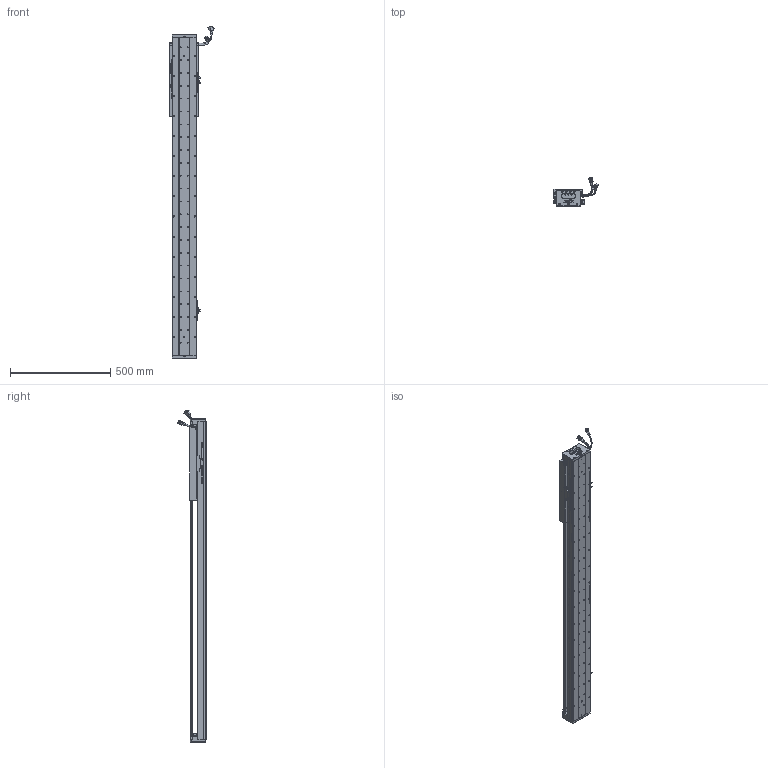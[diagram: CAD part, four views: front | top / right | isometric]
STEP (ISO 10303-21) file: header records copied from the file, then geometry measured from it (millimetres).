
FILE_DESCRIPTION (( 'STEP AP203' ), '1' );
FILE_NAME ('Z5-RY120D-1-L500-B-K.SLDASM_1150.step', '2021-05-17T06:22:28', ( '盈信电脑' ), ( '东莞市道滘镇水果街19号' ), 'SwSTEP 2.0', 'SolidWorks 2016', '' );
FILE_SCHEMA (( 'CONFIG_CONTROL_DESIGN' ));
Length unit declared in the file: millimetre
Products named in the file (37): 覜茼ん672; SCREW-M1.6-3; SHIELDPLATE; LABEL-Part-1; 120-Z-臏賑輸盄裔(21遴); COVER-Part-1; 080黍杅芛假蚾釱21遴; SEAL; SCREW-M1.7; SCREW-M1.6-2; 672嫖萇羲壽假蚾釱; Z5-RY120-500-倰第菁釱_1150; Z-RY120D詩湍奻揤裔; Z5-RY120D-1-L500-B-K.SLDASM_1150; HARNESS-Part-1; SCALE-Part-1; Z5-RY120-L500詩湍100mm遵_1150; 榋妏寠巭燃_暯_M2_2; HOLDER0; HARNESS; Z5-RY120铝滑块（21款）; Z-120詩湍傷裔啣; PSLH080_PSLF2; LABEL; 140雄赽晤鎢ん堤盄; PBU_SHEET; SCALE; SCREW-M1.6; HARNESS-Part-2; SEAL-Part-1; 140蚥薯蝶輸; COVER; SCALE-Part-2; SCREW-M1.6-1; SCREW-M1.7-1; RY100FB-遵嫖萇覜茼え; Z-RY120D詩湍狟揤裔
Assembly tree (43 placements, depth 4):
  Z5-RY120D-1-L500-B-K.SLDASM_1150
    Z5-RY120-500-倰第菁釱_1150
    覜茼ん672  x3
    672嫖萇羲壽假蚾釱  x2
    Z5-RY120铝滑块（21款）
    PSLH080_PSLF2
      SCALE
        SCALE-Part-1
        SCALE-Part-2
      HARNESS
        HARNESS-Part-1
        HARNESS-Part-2
      LABEL
        LABEL-Part-1
      COVER
        COVER-Part-1
      SEAL
        SEAL-Part-1
      榋妏寠巭燃_暯_M2_2
      SHIELDPLATE
      SCREW-M1.7
      SCREW-M1.7-1
      PBU_SHEET
      SCREW-M1.6
      SCREW-M1.6-1
      SCREW-M1.6-2
      SCREW-M1.6-3
      HOLDER0
    080黍杅芛假蚾釱21遴
    120-Z-臏賑輸盄裔(21遴)
    140雄赽晤鎢ん堤盄
    140蚥薯蝶輸  x2
    RY100FB-遵嫖萇覜茼え
    Z-120詩湍傷裔啣  x2
    Z-RY120D詩湍奻揤裔  x2
    Z-RY120D詩湍狟揤裔  x2
    Z5-RY120-L500詩湍100mm遵_1150
Bounding box: 222.86 x 140.94 x 1653.99 mm (x, y, z)
Volume: 4567194.6 mm3; surface area: 1499526 mm2
Topology: 38 solids, 38 shells, 3159 faces, 8695 edges, 5490 vertices
Faces by surface type: cylinder 1547, plane 1172, cone 318, torus 69, bspline 53
Entity records: 99110 total; most frequent: CARTESIAN_POINT 27741, ORIENTED_EDGE 14278, DIRECTION 13759, EDGE_CURVE 7139, AXIS2_PLACEMENT_3D 5082, VERTEX_POINT 4610, LINE 3595, VECTOR 3595
